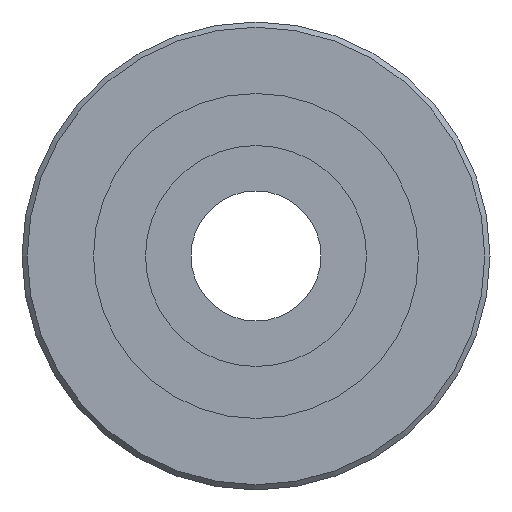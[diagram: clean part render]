
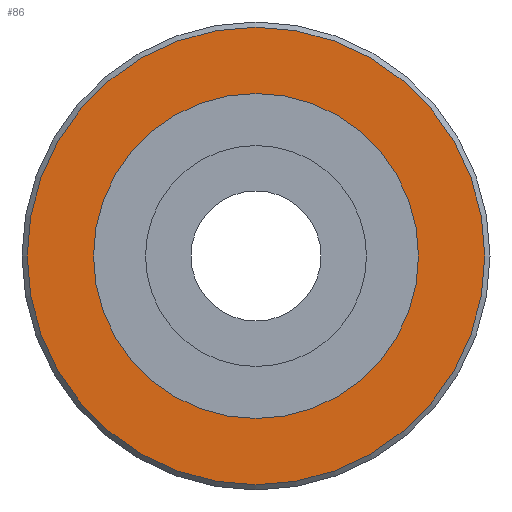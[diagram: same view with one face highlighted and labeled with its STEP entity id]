
A CAD part, left-side view. The second image highlights one B-rep face of the part: STEP entity #86.
In plain terms, the highlighted planar face has unit normal (-1, 0, 0).
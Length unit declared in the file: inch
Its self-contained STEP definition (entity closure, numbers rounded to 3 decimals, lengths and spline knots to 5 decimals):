
#59=CARTESIAN_POINT('',(10.75,32.8,0.));
#60=VERTEX_POINT('',#59);
#61=CARTESIAN_POINT('',(10.75,24.,0.));
#62=DIRECTION('',(-1.,0.,0.));
#63=DIRECTION('',(0.,1.,0.));
#64=AXIS2_PLACEMENT_3D('',#61,#62,#63);
#65=CIRCLE('',#64,8.8);
#66=EDGE_CURVE('',#60,#60,#65,.T.);
#67=ORIENTED_EDGE('',*,*,#66,.T.);
#68=EDGE_LOOP('',(#67));
#69=FACE_OUTER_BOUND('',#68,.T.);
#70=CARTESIAN_POINT('',(10.75,30.25,0.));
#71=VERTEX_POINT('',#70);
#72=CARTESIAN_POINT('',(10.75,24.,0.));
#73=DIRECTION('',(-1.,0.,0.));
#74=DIRECTION('',(0.,1.,0.));
#75=AXIS2_PLACEMENT_3D('',#72,#73,#74);
#76=CIRCLE('',#75,6.25);
#77=EDGE_CURVE('',#71,#71,#76,.T.);
#78=ORIENTED_EDGE('',*,*,#77,.F.);
#79=EDGE_LOOP('',(#78));
#80=FACE_BOUND('',#79,.T.);
#81=CARTESIAN_POINT('',(10.75,31.525,0.));
#82=DIRECTION('',(-1.,0.,0.));
#83=DIRECTION('',(0.,1.,0.));
#84=AXIS2_PLACEMENT_3D('',#81,#82,#83);
#85=PLANE('',#84);
#86=ADVANCED_FACE('',(#69,#80),#85,.T.);
